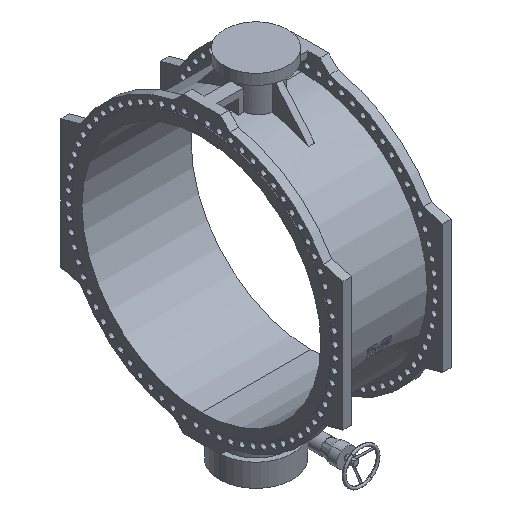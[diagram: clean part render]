
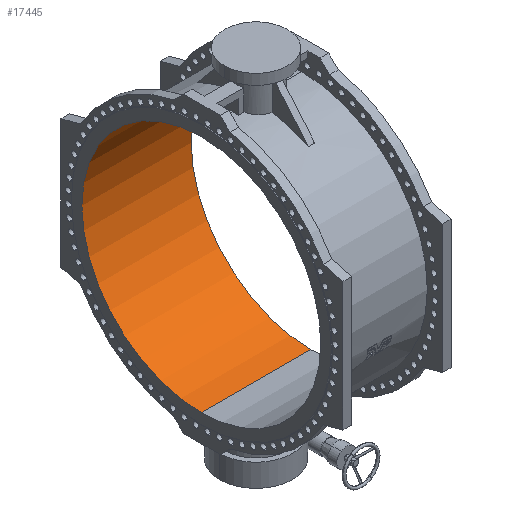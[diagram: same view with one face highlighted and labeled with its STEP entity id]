
A CAD part, isometric view. The second image highlights one B-rep face of the part: STEP entity #17445.
In plain terms, the highlighted cylindrical face has radius 1300 mm (diameter 2600 mm), a partial arc.
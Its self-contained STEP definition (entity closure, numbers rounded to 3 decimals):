
#239 = VERTEX_POINT ( 'NONE', #2335 ) ;
#914 = DIRECTION ( 'NONE',  ( 1., 0., 0. ) ) ;
#1120 = VERTEX_POINT ( 'NONE', #2523 ) ;
#1230 = DIRECTION ( 'NONE',  ( 0., 0., -1. ) ) ;
#2335 = CARTESIAN_POINT ( 'NONE',  ( -595., 0., -1300. ) ) ;
#2523 = CARTESIAN_POINT ( 'NONE',  ( 595., 0., 1300. ) ) ;
#2743 = DIRECTION ( 'NONE',  ( -1., 0., 0. ) ) ;
#3520 = DIRECTION ( 'NONE',  ( 1., 0., 0. ) ) ;
#3614 = ORIENTED_EDGE ( 'NONE', *, *, #9866, .T. ) ;
#3622 = CARTESIAN_POINT ( 'NONE',  ( 595., 0., -1300. ) ) ;
#3703 = CARTESIAN_POINT ( 'NONE',  ( 595., 0., 0. ) ) ;
#4049 = DIRECTION ( 'NONE',  ( 1., 0., 0. ) ) ;
#4070 = CARTESIAN_POINT ( 'NONE',  ( -595., 0., 0. ) ) ;
#4490 = EDGE_CURVE ( 'NONE', #239, #16668, #15297, .T. ) ;
#4685 = CYLINDRICAL_SURFACE ( 'NONE', #17266, 1300. ) ;
#4945 = ORIENTED_EDGE ( 'NONE', *, *, #9586, .F. ) ;
#5386 = AXIS2_PLACEMENT_3D ( 'NONE', #4070, #2743, #17160 ) ;
#6034 = LINE ( 'NONE', #14338, #11298 ) ;
#6473 = ORIENTED_EDGE ( 'NONE', *, *, #4490, .T. ) ;
#6656 = VECTOR ( 'NONE', #3520, 1000. ) ;
#7650 = CIRCLE ( 'NONE', #5386, 1300. ) ;
#7814 = VERTEX_POINT ( 'NONE', #12028 ) ;
#9586 = EDGE_CURVE ( 'NONE', #7814, #1120, #6034, .T. ) ;
#9866 = EDGE_CURVE ( 'Defeatured_0_140+Defeatured_0_35+Defeatured_0_35+Defeatured_0_35', #7814, #239, #7650, .T. ) ;
#9911 = DIRECTION ( 'NONE',  ( 1., 0., 0. ) ) ;
#10121 = EDGE_CURVE ( 'Defeatured_0_140+Defeatured_0_58+Defeatured_0_58+Defeatured_0_58', #16668, #1120, #13303, .T. ) ;
#11298 = VECTOR ( 'NONE', #914, 1000. ) ;
#11322 = CARTESIAN_POINT ( 'NONE',  ( -4442.621, 0., 0. ) ) ;
#12028 = CARTESIAN_POINT ( 'NONE',  ( -595., 0., 1300. ) ) ;
#12627 = CARTESIAN_POINT ( 'NONE',  ( -4442.621, 0., -1300. ) ) ;
#13092 = EDGE_LOOP ( 'NONE', ( #4945, #3614, #6473, #13700 ) ) ;
#13303 = CIRCLE ( 'NONE', #16683, 1300. ) ;
#13700 = ORIENTED_EDGE ( 'NONE', *, *, #10121, .T. ) ;
#13906 = FACE_OUTER_BOUND ( 'NONE', #13092, .T. ) ;
#14338 = CARTESIAN_POINT ( 'NONE',  ( -4442.621, 0., 1300. ) ) ;
#15297 = LINE ( 'NONE', #12627, #6656 ) ;
#16668 = VERTEX_POINT ( 'NONE', #3622 ) ;
#16683 = AXIS2_PLACEMENT_3D ( 'NONE', #3703, #4049, #1230 ) ;
#16724 = DIRECTION ( 'NONE',  ( 0., 0., -1. ) ) ;
#17160 = DIRECTION ( 'NONE',  ( 0., 0., -1. ) ) ;
#17266 = AXIS2_PLACEMENT_3D ( 'NONE', #11322, #9911, #16724 ) ;
#17445 = ADVANCED_FACE ( 'Defeatured_0_140', ( #13906 ), #4685, .F. ) ;
